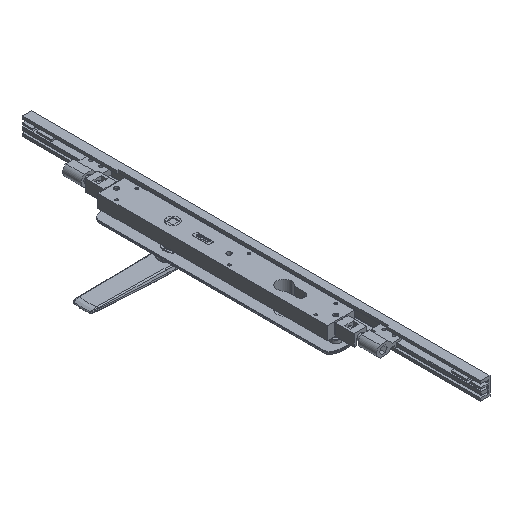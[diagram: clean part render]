
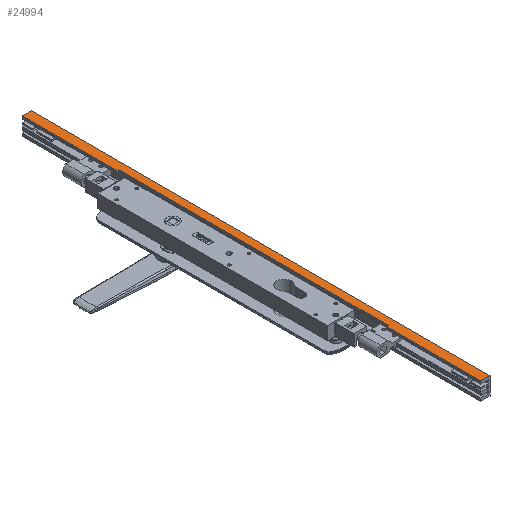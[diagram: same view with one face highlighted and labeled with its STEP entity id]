
A CAD part, isometric view. The second image highlights one B-rep face of the part: STEP entity #24994.
In plain terms, the highlighted planar face has unit normal (0, 0, 1) as drawn and (1, 0, 0) by its records, which use the part's own axes.
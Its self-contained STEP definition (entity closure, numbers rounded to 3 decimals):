
#168 = VECTOR ( 'NONE', #28337, 1000. ) ;
#1039 = VERTEX_POINT ( 'NONE', #7405 ) ;
#1808 = LINE ( 'NONE', #21195, #18958 ) ;
#2884 = VERTEX_POINT ( 'NONE', #7190 ) ;
#4050 = AXIS2_PLACEMENT_3D ( 'NONE', #16857, #23605, #29319 ) ;
#4248 = EDGE_CURVE ( 'NONE', #1039, #2884, #12735, .T. ) ;
#4394 = DIRECTION ( 'NONE',  ( 0., 1., 0. ) ) ;
#4422 = ORIENTED_EDGE ( 'NONE', *, *, #4248, .F. ) ;
#5874 = VECTOR ( 'NONE', #7300, 1000. ) ;
#6658 = DIRECTION ( 'NONE',  ( 0., 0., -1. ) ) ;
#7031 = PLANE ( 'NONE',  #4050 ) ;
#7190 = CARTESIAN_POINT ( 'NONE',  ( 19.3, 12.4, 0. ) ) ;
#7300 = DIRECTION ( 'NONE',  ( 0., -1., 0. ) ) ;
#7376 = VECTOR ( 'NONE', #25714, 1000. ) ;
#7405 = CARTESIAN_POINT ( 'NONE',  ( 19.3, 12.4, 544. ) ) ;
#7563 = CARTESIAN_POINT ( 'NONE',  ( 19.3, 12.4, 544. ) ) ;
#8975 = ORIENTED_EDGE ( 'NONE', *, *, #19848, .T. ) ;
#9449 = ORIENTED_EDGE ( 'NONE', *, *, #30439, .T. ) ;
#9542 = VERTEX_POINT ( 'NONE', #15054 ) ;
#10661 = CARTESIAN_POINT ( 'NONE',  ( 19.3, 10.4, 544. ) ) ;
#11308 = LINE ( 'NONE', #21011, #31643 ) ;
#12623 = EDGE_CURVE ( 'NONE', #17763, #28234, #21676, .T. ) ;
#12735 = LINE ( 'NONE', #7563, #31243 ) ;
#12953 = LINE ( 'NONE', #10661, #20561 ) ;
#13306 = LINE ( 'NONE', #23172, #168 ) ;
#14197 = ORIENTED_EDGE ( 'NONE', *, *, #12623, .F. ) ;
#14910 = VERTEX_POINT ( 'NONE', #27087 ) ;
#15054 = CARTESIAN_POINT ( 'NONE',  ( 19.3, 1.6, 544. ) ) ;
#15102 = ORIENTED_EDGE ( 'NONE', *, *, #26773, .F. ) ;
#16857 = CARTESIAN_POINT ( 'NONE',  ( 19.3, 10.4, 552.963 ) ) ;
#16955 = EDGE_CURVE ( 'NONE', #2884, #20912, #13306, .T. ) ;
#17489 = CARTESIAN_POINT ( 'NONE',  ( 19.3, 3.6, 432. ) ) ;
#17763 = VERTEX_POINT ( 'NONE', #17489 ) ;
#18187 = EDGE_CURVE ( 'NONE', #9542, #28234, #23304, .T. ) ;
#18338 = EDGE_CURVE ( 'NONE', #28850, #20912, #11308, .T. ) ;
#18958 = VECTOR ( 'NONE', #4394, 1000. ) ;
#19296 = FACE_OUTER_BOUND ( 'NONE', #30146, .T. ) ;
#19848 = EDGE_CURVE ( 'NONE', #17763, #14910, #23492, .T. ) ;
#20347 = CARTESIAN_POINT ( 'NONE',  ( 19.3, 1.6, 432. ) ) ;
#20561 = VECTOR ( 'NONE', #30548, 1000. ) ;
#20912 = VERTEX_POINT ( 'NONE', #23624 ) ;
#21011 = CARTESIAN_POINT ( 'NONE',  ( 19.3, 1.6, 552.963 ) ) ;
#21195 = CARTESIAN_POINT ( 'NONE',  ( 19.3, 10.4, 112. ) ) ;
#21544 = ORIENTED_EDGE ( 'NONE', *, *, #16955, .F. ) ;
#21676 = LINE ( 'NONE', #26700, #5874 ) ;
#23146 = CARTESIAN_POINT ( 'NONE',  ( 19.3, 1.6, 552.963 ) ) ;
#23172 = CARTESIAN_POINT ( 'NONE',  ( 19.3, 10.4, 0. ) ) ;
#23304 = LINE ( 'NONE', #23146, #7376 ) ;
#23492 = LINE ( 'NONE', #28494, #31523 ) ;
#23605 = DIRECTION ( 'NONE',  ( 1., 0., 0. ) ) ;
#23624 = CARTESIAN_POINT ( 'NONE',  ( 19.3, 1.6, 0. ) ) ;
#23714 = ORIENTED_EDGE ( 'NONE', *, *, #18187, .T. ) ;
#24994 = ADVANCED_FACE ( 'NONE', ( #19296 ), #7031, .T. ) ;
#25622 = ORIENTED_EDGE ( 'NONE', *, *, #18338, .T. ) ;
#25714 = DIRECTION ( 'NONE',  ( 0., 0., -1. ) ) ;
#26700 = CARTESIAN_POINT ( 'NONE',  ( 19.3, 10.4, 432. ) ) ;
#26773 = EDGE_CURVE ( 'NONE', #28850, #14910, #1808, .T. ) ;
#26951 = DIRECTION ( 'NONE',  ( 0., 0., -1. ) ) ;
#27087 = CARTESIAN_POINT ( 'NONE',  ( 19.3, 3.6, 112. ) ) ;
#28234 = VERTEX_POINT ( 'NONE', #20347 ) ;
#28337 = DIRECTION ( 'NONE',  ( 0., -1., 0. ) ) ;
#28494 = CARTESIAN_POINT ( 'NONE',  ( 19.3, 3.6, 552.963 ) ) ;
#28850 = VERTEX_POINT ( 'NONE', #30771 ) ;
#29319 = DIRECTION ( 'NONE',  ( 0., 0., -1. ) ) ;
#30146 = EDGE_LOOP ( 'NONE', ( #14197, #8975, #15102, #25622, #21544, #4422, #9449, #23714 ) ) ;
#30439 = EDGE_CURVE ( 'NONE', #1039, #9542, #12953, .T. ) ;
#30548 = DIRECTION ( 'NONE',  ( 0., -1., 0. ) ) ;
#30771 = CARTESIAN_POINT ( 'NONE',  ( 19.3, 1.6, 112. ) ) ;
#30874 = DIRECTION ( 'NONE',  ( 0., 0., -1. ) ) ;
#31243 = VECTOR ( 'NONE', #26951, 1000. ) ;
#31523 = VECTOR ( 'NONE', #6658, 1000. ) ;
#31643 = VECTOR ( 'NONE', #30874, 1000. ) ;
